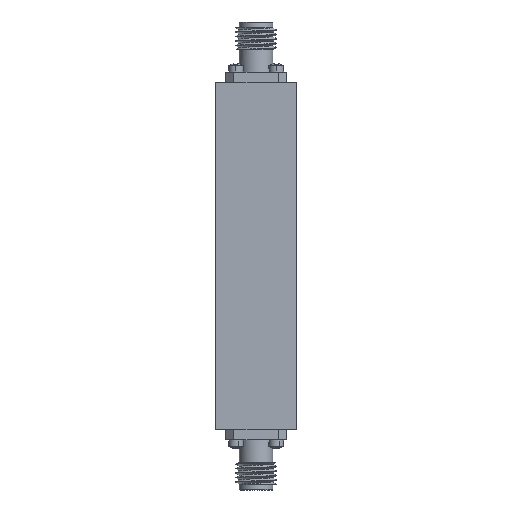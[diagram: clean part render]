
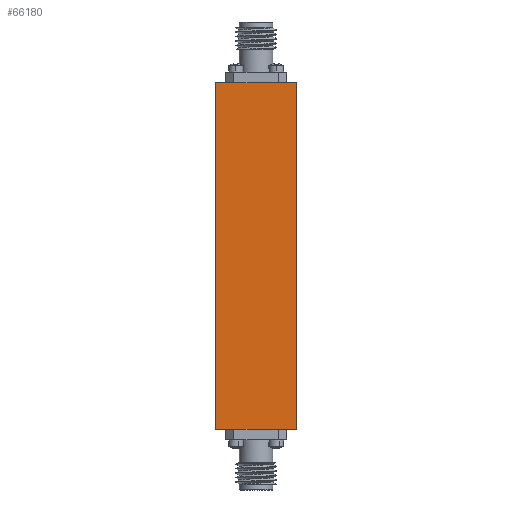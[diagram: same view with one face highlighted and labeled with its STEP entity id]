
A CAD part, left-side view. The second image highlights one B-rep face of the part: STEP entity #66180.
In plain terms, the highlighted planar face has unit normal (-1, 0, 0).
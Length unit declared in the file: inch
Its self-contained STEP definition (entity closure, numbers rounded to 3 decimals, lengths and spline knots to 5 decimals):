
#71 = CARTESIAN_POINT ( 'NONE',  ( 37.57983, 39.35357, 39.2368 ) ) ;
#150 = CARTESIAN_POINT ( 'NONE',  ( 37.57983, 38.85357, 39.95346 ) ) ;
#3248 = CARTESIAN_POINT ( 'NONE',  ( 37.57983, 39.02023, 39.2368 ) ) ;
#3348 = CARTESIAN_POINT ( 'NONE',  ( 37.57983, 38.85357, 41.3868 ) ) ;
#3888 = CARTESIAN_POINT ( 'NONE',  ( 37.57983, 39.35357, 39.2368 ) ) ;
#4353 = CARTESIAN_POINT ( 'NONE',  ( 37.57983, 39.1869, 41.3868 ) ) ;
#5214 = CARTESIAN_POINT ( 'NONE',  ( 37.57983, 38.85357, 39.2368 ) ) ;
#5566 = CARTESIAN_POINT ( 'NONE',  ( 37.57983, 38.85357, 40.67013 ) ) ;
#9917 = B_SPLINE_CURVE_WITH_KNOTS ( 'NONE', 3,
 ( #71, #50858, #20571, #41173 ),
 .UNSPECIFIED., .F., .F.,
 ( 4, 4 ),
 ( 0., 1. ),
 .UNSPECIFIED. ) ;
#18626 = EDGE_CURVE ( 'NONE', #24109, #43615, #55969, .T. ) ;
#20571 = CARTESIAN_POINT ( 'NONE',  ( 37.57983, 39.35357, 40.67013 ) ) ;
#22865 = PLANE ( 'NONE',  #43324 ) ;
#23536 = CARTESIAN_POINT ( 'NONE',  ( 37.57983, 39.35357, 41.3868 ) ) ;
#24109 = VERTEX_POINT ( 'NONE', #36991 ) ;
#29100 = CARTESIAN_POINT ( 'NONE',  ( 37.57983, 39.35357, 39.2368 ) ) ;
#29339 = CARTESIAN_POINT ( 'NONE',  ( 37.57983, 38.85357, 39.2368 ) ) ;
#36991 = CARTESIAN_POINT ( 'NONE',  ( 37.57983, 38.85357, 41.3868 ) ) ;
#38106 = EDGE_CURVE ( 'NONE', #38314, #24109, #51185, .T. ) ;
#38314 = VERTEX_POINT ( 'NONE', #29339 ) ;
#38379 = DIRECTION ( 'NONE',  ( 0., 1., 0. ) ) ;
#39443 = ORIENTED_EDGE ( 'NONE', *, *, #18626, .T. ) ;
#40583 = CARTESIAN_POINT ( 'NONE',  ( 37.57983, 38.85357, 41.3868 ) ) ;
#41120 = VERTEX_POINT ( 'NONE', #3888 ) ;
#41173 = CARTESIAN_POINT ( 'NONE',  ( 37.57983, 39.35357, 41.3868 ) ) ;
#41777 = ORIENTED_EDGE ( 'NONE', *, *, #47901, .T. ) ;
#43324 = AXIS2_PLACEMENT_3D ( 'NONE', #23536, #44087, #38379 ) ;
#43603 = CARTESIAN_POINT ( 'NONE',  ( 37.57983, 39.1869, 39.2368 ) ) ;
#43615 = VERTEX_POINT ( 'NONE', #47500 ) ;
#44087 = DIRECTION ( 'NONE',  ( -1., 0., 0. ) ) ;
#44719 = CARTESIAN_POINT ( 'NONE',  ( 37.57983, 39.35357, 41.3868 ) ) ;
#44788 = B_SPLINE_CURVE_WITH_KNOTS ( 'NONE', 3,
 ( #29100, #43603, #3248, #44964 ),
 .UNSPECIFIED., .F., .F.,
 ( 4, 4 ),
 ( 0., 1. ),
 .UNSPECIFIED. ) ;
#44964 = CARTESIAN_POINT ( 'NONE',  ( 37.57983, 38.85357, 39.2368 ) ) ;
#45445 = EDGE_LOOP ( 'NONE', ( #55702, #41777, #56789, #39443 ) ) ;
#47500 = CARTESIAN_POINT ( 'NONE',  ( 37.57983, 39.35357, 41.3868 ) ) ;
#47901 = EDGE_CURVE ( 'NONE', #41120, #38314, #44788, .T. ) ;
#49103 = FACE_OUTER_BOUND ( 'NONE', #45445, .T. ) ;
#50858 = CARTESIAN_POINT ( 'NONE',  ( 37.57983, 39.35357, 39.95346 ) ) ;
#51185 = B_SPLINE_CURVE_WITH_KNOTS ( 'NONE', 3,
 ( #5214, #150, #5566, #40583 ),
 .UNSPECIFIED., .F., .F.,
 ( 4, 4 ),
 ( 0., 1. ),
 .UNSPECIFIED. ) ;
#55702 = ORIENTED_EDGE ( 'NONE', *, *, #60097, .F. ) ;
#55969 = B_SPLINE_CURVE_WITH_KNOTS ( 'NONE', 3,
 ( #3348, #59525, #4353, #44719 ),
 .UNSPECIFIED., .F., .F.,
 ( 4, 4 ),
 ( 0., 1. ),
 .UNSPECIFIED. ) ;
#56789 = ORIENTED_EDGE ( 'NONE', *, *, #38106, .T. ) ;
#59525 = CARTESIAN_POINT ( 'NONE',  ( 37.57983, 39.02023, 41.3868 ) ) ;
#60097 = EDGE_CURVE ( 'NONE', #41120, #43615, #9917, .T. ) ;
#66180 = ADVANCED_FACE ( 'NONE', ( #49103 ), #22865, .T. ) ;
